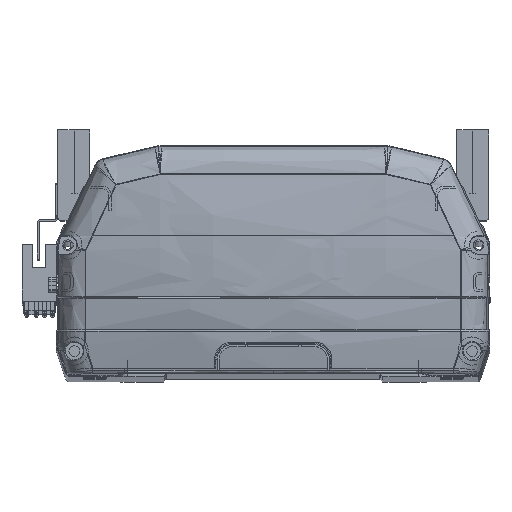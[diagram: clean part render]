
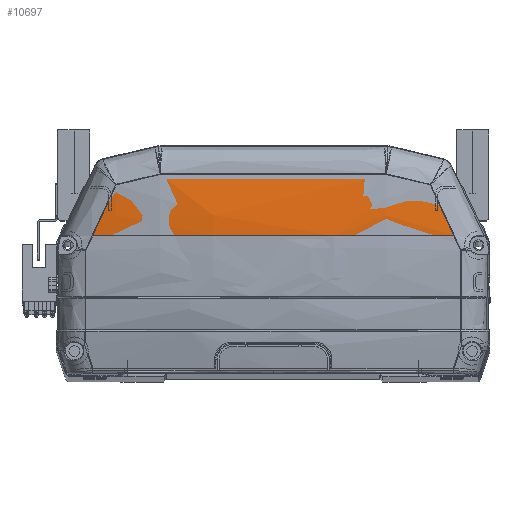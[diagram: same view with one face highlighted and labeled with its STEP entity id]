
A CAD part, top view. The second image highlights one B-rep face of the part: STEP entity #10697.
In plain terms, the highlighted toroidal (fillet/blend) face has major radius 312.5 mm and minor radius 572.4 mm.
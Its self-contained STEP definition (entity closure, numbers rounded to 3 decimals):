
#463 = EDGE_CURVE ( 'NONE', #21371, #11817, #15561, .T. ) ;
#1341 = B_SPLINE_CURVE_WITH_KNOTS ( 'NONE', 3,
 ( #27715, #1877, #21265, #21002, #37409, #18057 ),
 .UNSPECIFIED., .F., .F.,
 ( 4, 2, 4 ),
 ( 0., 0.044, 0.089 ),
 .UNSPECIFIED. ) ;
#1877 = CARTESIAN_POINT ( 'NONE',  ( -29.579, 79.39, -1.814 ) ) ;
#2363 = VERTEX_POINT ( 'NONE', #17494 ) ;
#3084 = VERTEX_POINT ( 'NONE', #26981 ) ;
#3385 = CARTESIAN_POINT ( 'NONE',  ( -64.813, 68.545, -4.11 ) ) ;
#3503 = CARTESIAN_POINT ( 'NONE',  ( 55.929, 76.66, -3.711 ) ) ;
#3660 = CARTESIAN_POINT ( 'NONE',  ( 64.811, 68.545, -4.037 ) ) ;
#4404 = CARTESIAN_POINT ( 'NONE',  ( -44.331, 79.443, -2.97 ) ) ;
#5027 = DIRECTION ( 'NONE',  ( 1., 0., 0. ) ) ;
#6468 = CARTESIAN_POINT ( 'NONE',  ( -71.027, 55.096, -4.524 ) ) ;
#6617 = CARTESIAN_POINT ( 'NONE',  ( -63.264, 71.911, -4.135 ) ) ;
#6626 = CARTESIAN_POINT ( 'NONE',  ( 71.027, 55.096, -4.524 ) ) ;
#7940 = CARTESIAN_POINT ( 'NONE',  ( -44.331, 79.443, -2.97 ) ) ;
#9531 = AXIS2_PLACEMENT_3D ( 'NONE', #22184, #13105, #22467 ) ;
#9899 = ORIENTED_EDGE ( 'NONE', *, *, #16661, .F. ) ;
#10335 = ORIENTED_EDGE ( 'NONE', *, *, #463, .T. ) ;
#10565 = ORIENTED_EDGE ( 'NONE', *, *, #14464, .F. ) ;
#10697 = ADVANCED_FACE ( 'NONE', ( #15733 ), #12722, .T. ) ;
#11243 = VERTEX_POINT ( 'NONE', #4404 ) ;
#11774 = EDGE_CURVE ( 'NONE', #3084, #11243, #35293, .T. ) ;
#11817 = VERTEX_POINT ( 'NONE', #24121 ) ;
#12549 = ORIENTED_EDGE ( 'NONE', *, *, #40755, .F. ) ;
#12722 = TOROIDAL_SURFACE ( 'NONE', #23997, -312.5, 572.4 ) ;
#12839 = CARTESIAN_POINT ( 'NONE',  ( -61.718, 75.278, -4.232 ) ) ;
#13105 = DIRECTION ( 'NONE',  ( 0., 1., 0. ) ) ;
#14464 = EDGE_CURVE ( 'NONE', #21371, #3084, #23029, .T. ) ;
#14493 = CARTESIAN_POINT ( 'NONE',  ( -55.929, 76.661, -3.711 ) ) ;
#15561 = CIRCLE ( 'NONE', #9531, 572.4 ) ;
#15733 = FACE_OUTER_BOUND ( 'NONE', #33073, .T. ) ;
#16456 = VERTEX_POINT ( 'NONE', #40486 ) ;
#16661 = EDGE_CURVE ( 'NONE', #2363, #16456, #38326, .T. ) ;
#17494 = CARTESIAN_POINT ( 'NONE',  ( 44.331, 79.443, -2.97 ) ) ;
#18057 = CARTESIAN_POINT ( 'NONE',  ( 44.331, 79.443, -2.97 ) ) ;
#20906 = CARTESIAN_POINT ( 'NONE',  ( -61.718, 75.278, -4.232 ) ) ;
#21002 = CARTESIAN_POINT ( 'NONE',  ( 14.805, 79.361, -1.235 ) ) ;
#21265 = CARTESIAN_POINT ( 'NONE',  ( -14.788, 79.361, -1.235 ) ) ;
#21371 = VERTEX_POINT ( 'NONE', #34787 ) ;
#22184 = CARTESIAN_POINT ( 'NONE',  ( 0., 55.096, -572.5 ) ) ;
#22467 = DIRECTION ( 'NONE',  ( 0., 0., 1. ) ) ;
#23029 = B_SPLINE_CURVE_WITH_KNOTS ( 'NONE', 3,
 ( #6468, #38083, #25435, #3385, #6617, #12839 ),
 .UNSPECIFIED., .F., .F.,
 ( 4, 2, 4 ),
 ( 0.006, 0.017, 0.029 ),
 .UNSPECIFIED. ) ;
#23851 = DIRECTION ( 'NONE',  ( 0., 0., -1. ) ) ;
#23997 = AXIS2_PLACEMENT_3D ( 'NONE', #27494, #5027, #23851 ) ;
#24121 = CARTESIAN_POINT ( 'NONE',  ( 71.027, 55.096, -4.524 ) ) ;
#24636 = ORIENTED_EDGE ( 'NONE', *, *, #11774, .F. ) ;
#25435 = CARTESIAN_POINT ( 'NONE',  ( -67.917, 61.816, -4.208 ) ) ;
#26267 = CARTESIAN_POINT ( 'NONE',  ( 50.132, 78.049, -3.29 ) ) ;
#26981 = CARTESIAN_POINT ( 'NONE',  ( -61.718, 75.278, -4.232 ) ) ;
#27154 = ORIENTED_EDGE ( 'NONE', *, *, #34197, .F. ) ;
#27494 = CARTESIAN_POINT ( 'NONE',  ( 0., 55.096, -260. ) ) ;
#27715 = CARTESIAN_POINT ( 'NONE',  ( -44.331, 79.443, -2.97 ) ) ;
#28814 = CARTESIAN_POINT ( 'NONE',  ( 67.917, 61.809, -4.135 ) ) ;
#32185 = CARTESIAN_POINT ( 'NONE',  ( 44.331, 79.443, -2.97 ) ) ;
#32611 = CARTESIAN_POINT ( 'NONE',  ( 61.718, 75.278, -4.232 ) ) ;
#33073 = EDGE_LOOP ( 'NONE', ( #10565, #10335, #27154, #9899, #12549, #24636 ) ) ;
#33824 = CARTESIAN_POINT ( 'NONE',  ( -50.132, 78.049, -3.29 ) ) ;
#34197 = EDGE_CURVE ( 'NONE', #16456, #11817, #38023, .T. ) ;
#34787 = CARTESIAN_POINT ( 'NONE',  ( -71.027, 55.096, -4.524 ) ) ;
#35293 = B_SPLINE_CURVE_WITH_KNOTS ( 'NONE', 3,
 ( #20906, #14493, #33824, #7940 ),
 .UNSPECIFIED., .F., .F.,
 ( 4, 4 ),
 ( 0., 0.018 ),
 .UNSPECIFIED. ) ;
#37409 = CARTESIAN_POINT ( 'NONE',  ( 29.579, 79.389, -1.814 ) ) ;
#38023 = B_SPLINE_CURVE_WITH_KNOTS ( 'NONE', 3,
 ( #40771, #3660, #28814, #6626 ),
 .UNSPECIFIED., .F., .F.,
 ( 4, 4 ),
 ( 0., 0.022 ),
 .UNSPECIFIED. ) ;
#38083 = CARTESIAN_POINT ( 'NONE',  ( -69.472, 58.454, -4.329 ) ) ;
#38326 = B_SPLINE_CURVE_WITH_KNOTS ( 'NONE', 3,
 ( #32185, #26267, #3503, #32611 ),
 .UNSPECIFIED., .F., .F.,
 ( 4, 4 ),
 ( 0., 0.018 ),
 .UNSPECIFIED. ) ;
#40486 = CARTESIAN_POINT ( 'NONE',  ( 61.718, 75.278, -4.232 ) ) ;
#40755 = EDGE_CURVE ( 'NONE', #11243, #2363, #1341, .T. ) ;
#40771 = CARTESIAN_POINT ( 'NONE',  ( 61.718, 75.278, -4.232 ) ) ;
